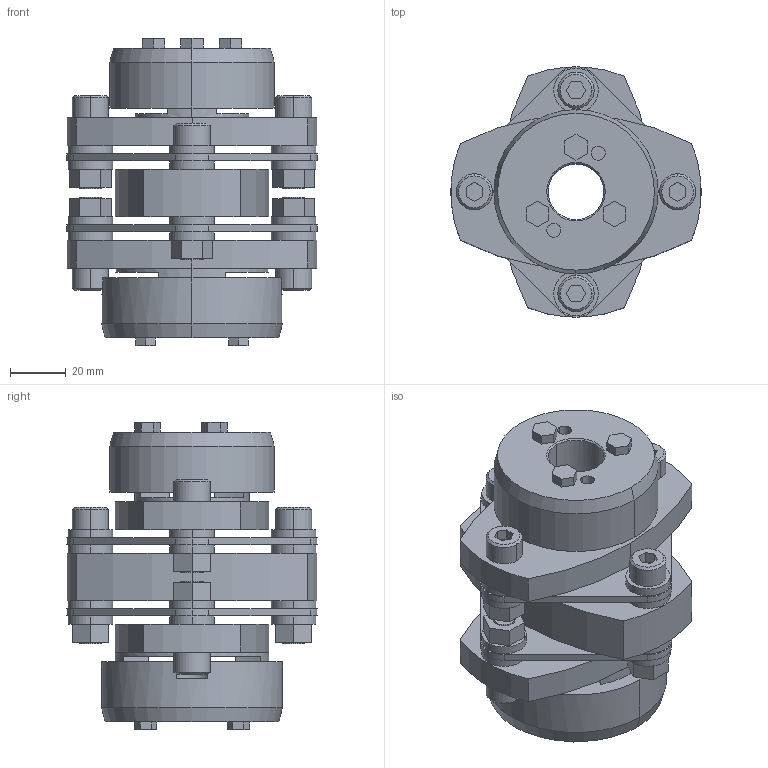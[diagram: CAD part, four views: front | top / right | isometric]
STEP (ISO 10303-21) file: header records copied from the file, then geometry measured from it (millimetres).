
FILE_DESCRIPTION((''),'2;1');
FILE_NAME('LCD-90T7-20×35.stp','2011-09-12T08:30:45',(''),(''),'AutoCAD STEP 2000i','AutoCAD 2000i',', , ');
FILE_SCHEMA(('CONFIG_CONTROL_DESIGN'));
Length unit declared in the file: millimetre
Products named in the file (9): LCD-90T7-19×35; 忣兜1; LC90T7-T035; LC90T7-T032; LC90T7-T030; LC90T7-T025; LC90T7-T019-1; LC90T7-T019; LCD90-ITA
Assembly tree (8 placements, depth 2):
  LCD-90T7-19×35
    忣兜1
    LC90T7-T035
    LC90T7-T032
    LC90T7-T030
    LC90T7-T025
    LC90T7-T019-1
    LC90T7-T019
    LCD90-ITA
Bounding box: 90 x 89.94 x 110.3 mm (x, y, z)
Volume: 269478.1 mm3; surface area: 74268.4 mm2
Topology: 1 solids, 1 shells, 332 faces, 810 edges, 530 vertices
Faces by surface type: plane 186, cylinder 122, cone 24
Entity records: 10041 total; most frequent: DIRECTION 1780, CARTESIAN_POINT 1681, ORIENTED_EDGE 1620, EDGE_CURVE 810, AXIS2_PLACEMENT_3D 629, VERTEX_POINT 530, VECTOR 522, LINE 522
